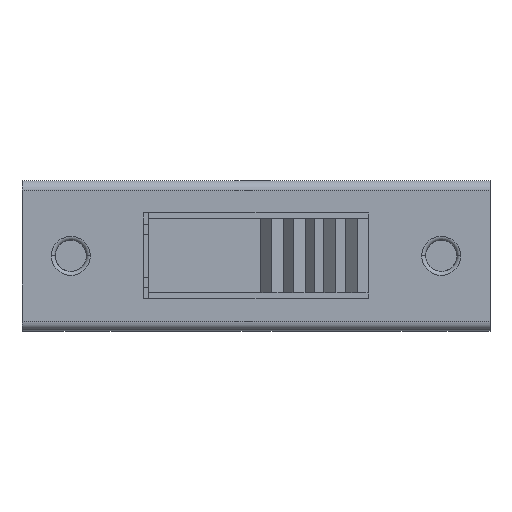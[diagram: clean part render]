
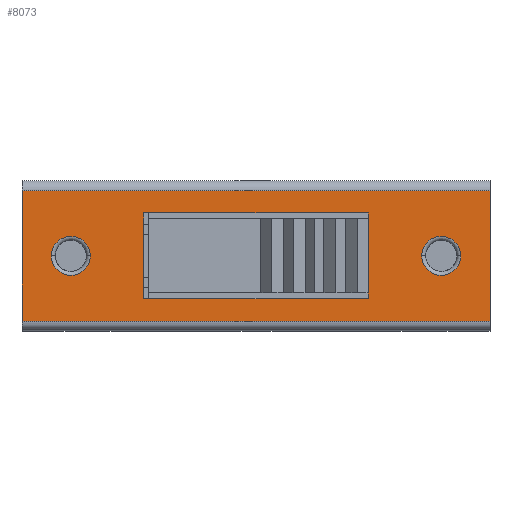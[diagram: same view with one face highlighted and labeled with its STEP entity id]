
A CAD part, top view. The second image highlights one B-rep face of the part: STEP entity #8073.
In plain terms, the highlighted planar face has unit normal (0, 0, 1).
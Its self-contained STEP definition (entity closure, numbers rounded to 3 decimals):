
#1773=DIRECTION('',(1.,0.,0.));
#1774=VECTOR('',#1773,24.);
#1775=CARTESIAN_POINT('',(0.,0.55,0.));
#1776=LINE('',#1775,#1774);
#1777=DIRECTION('',(0.,-1.,0.));
#1778=VECTOR('',#1777,6.7);
#1779=CARTESIAN_POINT('',(24.,7.25,0.));
#1780=LINE('',#1779,#1778);
#1781=DIRECTION('',(0.,1.,0.));
#1782=VECTOR('',#1781,6.7);
#1783=CARTESIAN_POINT('',(0.,0.55,0.));
#1784=LINE('',#1783,#1782);
#1785=CARTESIAN_POINT('',(21.5,3.9,0.));
#1786=DIRECTION('',(0.,0.,1.));
#1787=DIRECTION('',(1.,0.,0.));
#1788=AXIS2_PLACEMENT_3D('',#1785,#1786,#1787);
#1790=CARTESIAN_POINT('',(21.5,3.9,0.));
#1791=DIRECTION('',(0.,0.,1.));
#1792=DIRECTION('',(-1.,0.,0.));
#1793=AXIS2_PLACEMENT_3D('',#1790,#1791,#1792);
#1795=CARTESIAN_POINT('',(2.5,3.9,0.));
#1796=DIRECTION('',(0.,0.,1.));
#1797=DIRECTION('',(1.,0.,0.));
#1798=AXIS2_PLACEMENT_3D('',#1795,#1796,#1797);
#1800=CARTESIAN_POINT('',(2.5,3.9,0.));
#1801=DIRECTION('',(0.,0.,1.));
#1802=DIRECTION('',(-1.,0.,0.));
#1803=AXIS2_PLACEMENT_3D('',#1800,#1801,#1802);
#1805=DIRECTION('',(0.,1.,0.));
#1806=VECTOR('',#1805,0.3);
#1807=CARTESIAN_POINT('',(17.75,5.8,0.));
#1808=LINE('',#1807,#1806);
#1809=DIRECTION('',(-1.,0.,0.));
#1810=VECTOR('',#1809,11.5);
#1811=CARTESIAN_POINT('',(17.75,6.1,0.));
#1812=LINE('',#1811,#1810);
#1813=DIRECTION('',(0.,-1.,0.));
#1814=VECTOR('',#1813,4.4);
#1815=CARTESIAN_POINT('',(6.25,6.1,0.));
#1816=LINE('',#1815,#1814);
#1817=DIRECTION('',(1.,0.,0.));
#1818=VECTOR('',#1817,11.5);
#1819=CARTESIAN_POINT('',(6.25,1.7,0.));
#1820=LINE('',#1819,#1818);
#1821=DIRECTION('',(0.,1.,0.));
#1822=VECTOR('',#1821,0.3);
#1823=CARTESIAN_POINT('',(17.75,1.7,0.));
#1824=LINE('',#1823,#1822);
#1825=DIRECTION('',(0.,1.,0.));
#1826=VECTOR('',#1825,3.8);
#1827=CARTESIAN_POINT('',(17.75,2.,0.));
#1828=LINE('',#1827,#1826);
#1833=DIRECTION('',(-1.,0.,0.));
#1834=VECTOR('',#1833,24.);
#1835=CARTESIAN_POINT('',(24.,7.25,0.));
#1836=LINE('',#1835,#1834);
#5033=CARTESIAN_POINT('',(24.,0.55,0.));
#5034=VERTEX_POINT('',#5033);
#5035=CARTESIAN_POINT('',(24.,7.25,0.));
#5036=VERTEX_POINT('',#5035);
#5069=CARTESIAN_POINT('',(0.,7.25,0.));
#5070=VERTEX_POINT('',#5069);
#5071=CARTESIAN_POINT('',(0.,0.55,0.));
#5072=VERTEX_POINT('',#5071);
#5073=CARTESIAN_POINT('',(22.5,3.9,0.));
#5074=CARTESIAN_POINT('',(20.5,3.9,0.));
#5075=VERTEX_POINT('',#5073);
#5076=VERTEX_POINT('',#5074);
#5077=CARTESIAN_POINT('',(3.5,3.9,0.));
#5078=CARTESIAN_POINT('',(1.5,3.9,0.));
#5079=VERTEX_POINT('',#5077);
#5080=VERTEX_POINT('',#5078);
#5081=CARTESIAN_POINT('',(17.75,5.8,0.));
#5082=CARTESIAN_POINT('',(17.75,6.1,0.));
#5083=VERTEX_POINT('',#5081);
#5084=VERTEX_POINT('',#5082);
#5085=CARTESIAN_POINT('',(6.25,6.1,0.));
#5086=VERTEX_POINT('',#5085);
#5087=CARTESIAN_POINT('',(6.25,1.7,0.));
#5088=VERTEX_POINT('',#5087);
#5089=CARTESIAN_POINT('',(17.75,1.7,0.));
#5090=VERTEX_POINT('',#5089);
#5091=CARTESIAN_POINT('',(17.75,2.,0.));
#5092=VERTEX_POINT('',#5091);
#8035=CARTESIAN_POINT('',(12.,3.9,0.));
#8036=DIRECTION('',(0.,0.,1.));
#8037=DIRECTION('',(1.,0.,0.));
#8038=AXIS2_PLACEMENT_3D('',#8035,#8036,#8037);
#8039=PLANE('',#8038);
#8041=ORIENTED_EDGE('',*,*,#8040,.F.);
#8042=ORIENTED_EDGE('',*,*,#8000,.T.);
#8043=ORIENTED_EDGE('',*,*,#8030,.F.);
#8044=ORIENTED_EDGE('',*,*,#7911,.T.);
#8045=EDGE_LOOP('',(#8041,#8042,#8043,#8044));
#8046=FACE_OUTER_BOUND('',#8045,.F.);
#8048=ORIENTED_EDGE('',*,*,#8047,.T.);
#8050=ORIENTED_EDGE('',*,*,#8049,.T.);
#8051=EDGE_LOOP('',(#8048,#8050));
#8052=FACE_BOUND('',#8051,.F.);
#8054=ORIENTED_EDGE('',*,*,#8053,.T.);
#8056=ORIENTED_EDGE('',*,*,#8055,.T.);
#8057=EDGE_LOOP('',(#8054,#8056));
#8058=FACE_BOUND('',#8057,.F.);
#8060=ORIENTED_EDGE('',*,*,#8059,.T.);
#8062=ORIENTED_EDGE('',*,*,#8061,.T.);
#8064=ORIENTED_EDGE('',*,*,#8063,.T.);
#8066=ORIENTED_EDGE('',*,*,#8065,.T.);
#8068=ORIENTED_EDGE('',*,*,#8067,.T.);
#8070=ORIENTED_EDGE('',*,*,#8069,.T.);
#8071=EDGE_LOOP('',(#8060,#8062,#8064,#8066,#8068,#8070));
#8072=FACE_BOUND('',#8071,.F.);
#8073=ADVANCED_FACE('',(#8046,#8052,#8058,#8072),#8039,.T.);
#1789=CIRCLE('',#1788,1.);
#1794=CIRCLE('',#1793,1.);
#1799=CIRCLE('',#1798,1.);
#1804=CIRCLE('',#1803,1.);
#7911=EDGE_CURVE('',#5072,#5070,#1784,.T.);
#8000=EDGE_CURVE('',#5036,#5034,#1780,.T.);
#8030=EDGE_CURVE('',#5072,#5034,#1776,.T.);
#8040=EDGE_CURVE('',#5036,#5070,#1836,.T.);
#8047=EDGE_CURVE('',#5075,#5076,#1789,.T.);
#8049=EDGE_CURVE('',#5076,#5075,#1794,.T.);
#8053=EDGE_CURVE('',#5079,#5080,#1799,.T.);
#8055=EDGE_CURVE('',#5080,#5079,#1804,.T.);
#8059=EDGE_CURVE('',#5083,#5084,#1808,.T.);
#8061=EDGE_CURVE('',#5084,#5086,#1812,.T.);
#8063=EDGE_CURVE('',#5086,#5088,#1816,.T.);
#8065=EDGE_CURVE('',#5088,#5090,#1820,.T.);
#8067=EDGE_CURVE('',#5090,#5092,#1824,.T.);
#8069=EDGE_CURVE('',#5092,#5083,#1828,.T.);
